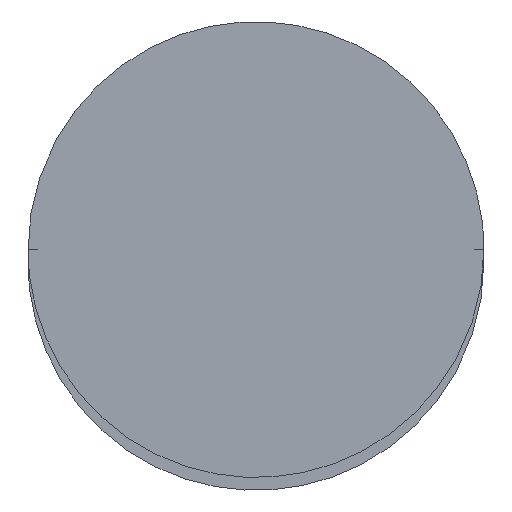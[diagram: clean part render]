
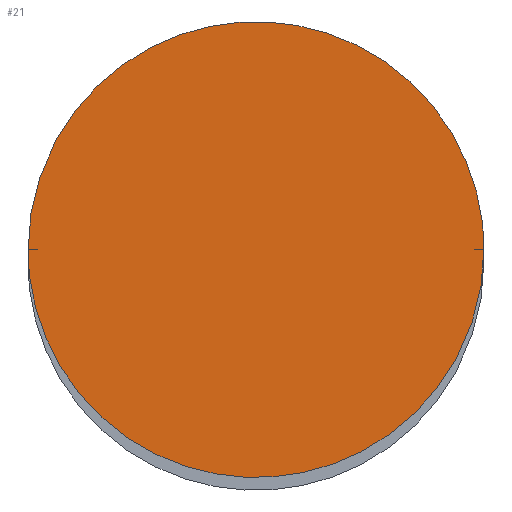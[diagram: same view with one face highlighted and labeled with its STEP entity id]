
A CAD part, top view. The second image highlights one B-rep face of the part: STEP entity #21.
In plain terms, the highlighted planar face has unit normal (0, 0, 1).
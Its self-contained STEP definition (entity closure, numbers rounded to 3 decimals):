
#21=ADVANCED_FACE('',(#32),#151,.T.);
#32=FACE_OUTER_BOUND('',#44,.T.);
#44=EDGE_LOOP('',(#70,#71));
#70=ORIENTED_EDGE('',*,*,#109,.F.);
#71=ORIENTED_EDGE('',*,*,#99,.F.);
#99=EDGE_CURVE('',#136,#143,#119,.T.);
#109=EDGE_CURVE('',#143,#136,#129,.T.);
#119=(
BOUNDED_CURVE()
B_SPLINE_CURVE(2,(#376,#377,#378,#379,#380),.UNSPECIFIED.,.F.,.F.)
B_SPLINE_CURVE_WITH_KNOTS((3,2,3),(-565.487,-424.115,
-282.743),.UNSPECIFIED.)
CURVE()
GEOMETRIC_REPRESENTATION_ITEM()
RATIONAL_B_SPLINE_CURVE((1.,0.707,1.,0.707,1.))
REPRESENTATION_ITEM('')
);
#129=(
BOUNDED_CURVE()
B_SPLINE_CURVE(2,(#417,#418,#419,#420,#421),.UNSPECIFIED.,.F.,.F.)
B_SPLINE_CURVE_WITH_KNOTS((3,2,3),(-282.743,-141.372,
0.),.UNSPECIFIED.)
CURVE()
GEOMETRIC_REPRESENTATION_ITEM()
RATIONAL_B_SPLINE_CURVE((1.,0.707,1.,0.707,1.))
REPRESENTATION_ITEM('')
);
#136=VERTEX_POINT('',#339);
#143=VERTEX_POINT('',#346);
#151=PLANE('',#245);
#245=AXIS2_PLACEMENT_3D('',#296,#253,$);
#253=DIRECTION('',(0.,0.,1.));
#296=CARTESIAN_POINT('',(2980.913,58.49,3200.));
#339=CARTESIAN_POINT('',(2800.913,-31.51,3200.));
#346=CARTESIAN_POINT('',(2980.913,-31.51,3200.));
#376=CARTESIAN_POINT('',(2800.913,-31.51,3200.));
#377=CARTESIAN_POINT('',(2800.913,58.49,3200.));
#378=CARTESIAN_POINT('',(2890.913,58.49,3200.));
#379=CARTESIAN_POINT('',(2980.913,58.49,3200.));
#380=CARTESIAN_POINT('',(2980.913,-31.51,3200.));
#417=CARTESIAN_POINT('',(2980.913,-31.51,3200.));
#418=CARTESIAN_POINT('',(2980.913,-121.51,3200.));
#419=CARTESIAN_POINT('',(2890.913,-121.51,3200.));
#420=CARTESIAN_POINT('',(2800.913,-121.51,3200.));
#421=CARTESIAN_POINT('',(2800.913,-31.51,3200.));
